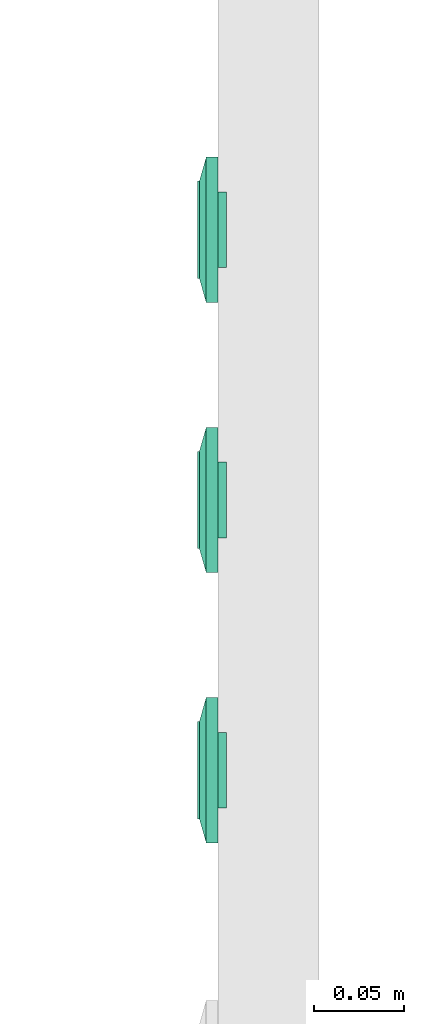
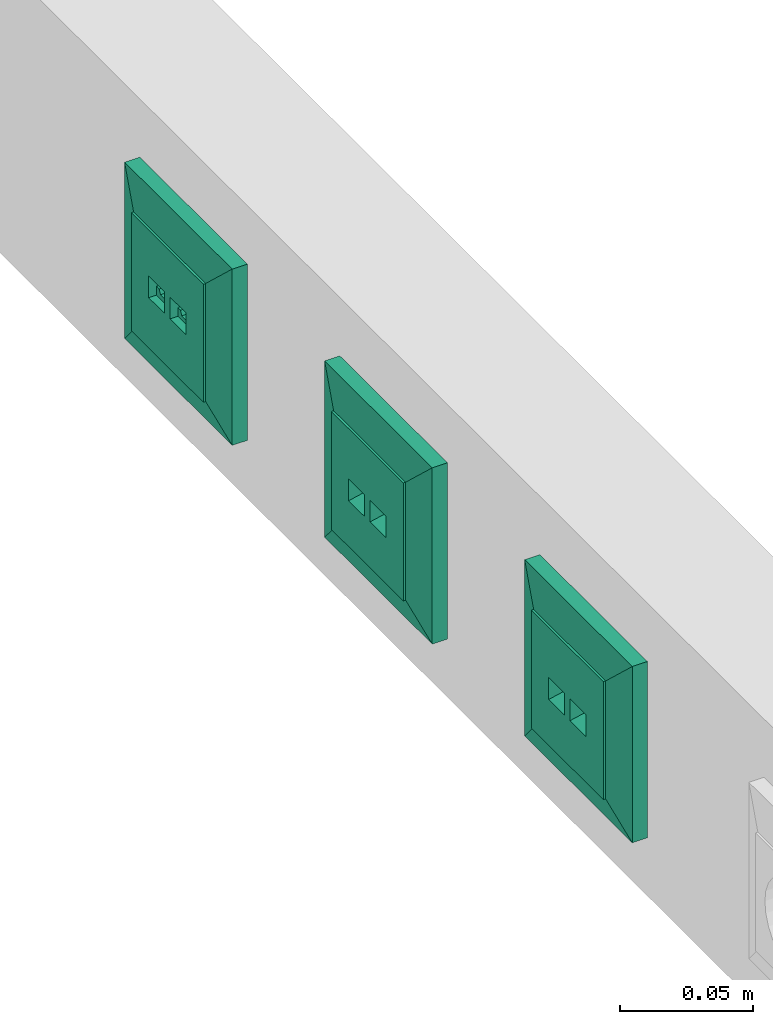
# One storey, part 137 of 153: 3 flow terminals.
"""IFC2X3 building model written with IfcOpenShell, lengths in metres."""

import ifcopenshell
import ifcopenshell.guid

model = None  # the IFC model being written
_history = None  # IfcOwnerHistory: only IFC2X3 demands one
_inside = {}  # id of a spatial element -> (the spatial element, [elements in it])
_under = {}  # id of a project, library or spatial element -> (it, [spatial elements below it])
_declared = {}  # id of a project -> (the project, [libraries it declares])
_typed = {}  # id of a type object -> (the type object, [elements of that type])
_made_of = {}  # id of a material, layer set ... -> (it, [elements and type objects made of it])


def new_model(schema):
    """Start an empty IFC model of exactly this schema.

    Asked for "IFC4X3", IfcOpenShell would pick the latest addendum, in which some entities
    have other attributes; the version numbers below select the first issue.
    IFC2X3 requires an IfcOwnerHistory on every rooted entity: one is made here for all.
    """
    global model, _history
    if schema == "IFC4X3":
        model = ifcopenshell.file(schema_version=(4, 3, 0, 0))
    else:
        model = ifcopenshell.file(schema=schema)
    _inside.clear()
    _under.clear()
    _declared.clear()
    _typed.clear()
    _made_of.clear()
    _history = None
    if model.schema == "IFC2X3":
        org = make("IfcOrganization", Name="unknown")
        user = make(
            "IfcPersonAndOrganization",
            ThePerson=make("IfcPerson", FamilyName="unknown"),
            TheOrganization=org,
        )
        app = make(
            "IfcApplication",
            ApplicationDeveloper=org,
            Version="unknown",
            ApplicationFullName="unknown",
            ApplicationIdentifier="unknown",
        )
        _history = make(
            "IfcOwnerHistory",
            OwningUser=user,
            OwningApplication=app,
            ChangeAction="ADDED",
            CreationDate=0,
        )
    return model


def make(cls, **values):
    """One entity of the class cls with the attributes given. An attribute that is None is left unset."""
    return model.create_entity(
        cls, **{name: value for name, value in values.items() if value is not None}
    )


def entity(cls, *values):
    """Any entity or typed value of the class cls, its attributes in the order of the schema. None: left unset."""
    e = model.create_entity(cls)
    for i, value in enumerate(values):
        if value is not None:
            e[i] = value
    return e


def rooted(cls, **values):
    """An entity with a GlobalId (a new one), such as an element, a storey or a relation."""
    return make(cls, GlobalId=ifcopenshell.guid.new(), OwnerHistory=_history, **values)


def si_unit(unit_type, name, prefix=None):
    """IfcSIUnit, for example si_unit("LENGTHUNIT", "METRE", prefix="MILLI")."""
    return make("IfcSIUnit", UnitType=unit_type, Prefix=prefix, Name=name)


def converted_unit(unit_type, name, factor, base, dimensions=None, offset=None):
    """IfcConversionBasedUnit, such as the inch: factor (a typed value) times the base unit."""
    return make(
        "IfcConversionBasedUnit"
        if offset is None
        else "IfcConversionBasedUnitWithOffset",
        ConversionOffset=offset,
        Dimensions=None
        if dimensions is None
        else entity("IfcDimensionalExponents", *dimensions),
        UnitType=unit_type,
        Name=name,
        ConversionFactor=make(
            "IfcMeasureWithUnit", ValueComponent=factor, UnitComponent=base
        ),
    )


def derived_unit(unit_type, elements):
    """IfcDerivedUnit: a product of units, each with its exponent."""
    return make(
        "IfcDerivedUnit",
        Elements=[
            make("IfcDerivedUnitElement", Unit=unit, Exponent=power)
            for unit, power in elements
        ],
        UnitType=unit_type,
    )


def assignment(units):
    """IfcUnitAssignment: the units of a project."""
    return None if units is None else make("IfcUnitAssignment", Units=units)


def point(xyz):
    """IfcCartesianPoint."""
    return None if xyz is None else make("IfcCartesianPoint", Coordinates=xyz)


def direction(xyz):
    """IfcDirection."""
    return None if xyz is None else make("IfcDirection", DirectionRatios=xyz)


def frame(location, z_axis=None, x_axis=None):
    """IfcAxis2Placement3D, a coordinate frame: its origin and axes. An axis left out is left unset."""
    return make(
        "IfcAxis2Placement3D",
        Location=point(location),
        Axis=direction(z_axis),
        RefDirection=direction(x_axis),
    )


def origin():
    """The frame at (0, 0, 0) with its axes left unset."""
    return frame((0.0, 0.0, 0.0))


def place(relative_to, where):
    """IfcLocalPlacement: puts the frame where relative to a parent placement (None: the world)."""
    return make(
        "IfcLocalPlacement", PlacementRelTo=relative_to, RelativePlacement=where
    )


def context(
    kind, dimensions, precision=None, world=None, true_north=None, identifier=None
):
    """IfcGeometricRepresentationContext, for example the 3D "Model" context."""
    return make(
        "IfcGeometricRepresentationContext",
        ContextIdentifier=identifier,
        ContextType=kind,
        CoordinateSpaceDimension=dimensions,
        Precision=precision,
        WorldCoordinateSystem=world,
        TrueNorth=true_north,
    )


def subcontext(parent, identifier, kind, view, scale=None):
    """IfcGeometricRepresentationSubContext, for example "Body" below "Model"."""
    return make(
        "IfcGeometricRepresentationSubContext",
        ContextIdentifier=identifier,
        ContextType=kind,
        ParentContext=parent,
        TargetScale=scale,
        TargetView=view,
    )


def project(units=None, contexts=None):
    """IfcProject with its units and contexts."""
    return rooted(
        "IfcProject",
        Name="project",
        RepresentationContexts=contexts,
        UnitsInContext=assignment(units),
    )


def spatial(cls, under=None, at=None, **own):
    """A site, building, storey or space (cls), placed at a placement, below another one or the project."""
    s = rooted(cls, ObjectPlacement=at, **own)
    if under is not None:
        _under.setdefault(under.id(), (under, []))[1].append(s)
    return s


def faces_of(points, faces, orient=None, outer=None):
    """IfcFace entities. A face is a list of loops; a loop is a list of indices into points, from 0.

    orient and outer hold one flag for each loop. By default every Orientation is true, the
    first loop of a face is its IfcFaceOuterBound and the others are IfcFaceBound.
    """
    made = []
    for i, loops in enumerate(faces):
        bounds = []
        for j, loop in enumerate(loops):
            is_outer = j == 0 if outer is None else outer[i][j]
            bounds.append(
                make(
                    "IfcFaceOuterBound" if is_outer else "IfcFaceBound",
                    Bound=make("IfcPolyLoop", Polygon=[points[k] for k in loop]),
                    Orientation=True if orient is None else orient[i][j],
                )
            )
        made.append(make("IfcFace", Bounds=bounds))
    return made


def faceted_brep(points, faces, orient=None, outer=None, voids=None):
    """IfcFacetedBrep: a solid bounded by flat faces; with voids (closed shells), ...WithVoids."""
    shared = [point(p) for p in points]
    hull = make("IfcClosedShell", CfsFaces=faces_of(shared, faces, orient, outer))
    if voids is None:
        return make("IfcFacetedBrep", Outer=hull)
    return make(
        "IfcFacetedBrepWithVoids",
        Outer=hull,
        Voids=[
            make(cls, CfsFaces=faces_of(shared, fs, o, b)) for cls, fs, o, b in voids
        ],
    )


def shape(context_of_items, identifier, shape_type, items):
    """IfcShapeRepresentation: the items that make up one representation, for example the "Body"."""
    return make(
        "IfcShapeRepresentation",
        ContextOfItems=context_of_items,
        RepresentationIdentifier=identifier,
        RepresentationType=shape_type,
        Items=items,
    )


def source(mapping_origin, context_of_items, identifier, shape_type, items):
    """IfcRepresentationMap: a shape defined once, which mapped items show again and again."""
    return make(
        "IfcRepresentationMap",
        MappingOrigin=mapping_origin,
        MappedRepresentation=shape(context_of_items, identifier, shape_type, items),
    )


def transform(
    local_origin,
    x_axis=None,
    y_axis=None,
    z_axis=None,
    scale=None,
    scale2=None,
    scale3=None,
    uniform=True,
):
    """IfcCartesianTransformationOperator3D, or its non-uniform kind. x_axis, y_axis, z_axis: its Axis1, 2, 3."""
    if uniform:
        return make(
            "IfcCartesianTransformationOperator3D",
            Axis1=direction(x_axis),
            Axis2=direction(y_axis),
            LocalOrigin=point(local_origin),
            Scale=scale,
            Axis3=direction(z_axis),
        )
    return make(
        "IfcCartesianTransformationOperator3DnonUniform",
        Axis1=direction(x_axis),
        Axis2=direction(y_axis),
        LocalOrigin=point(local_origin),
        Scale=scale,
        Axis3=direction(z_axis),
        Scale2=scale2,
        Scale3=scale3,
    )


def mapped(mapping_source, mapping_target):
    """IfcMappedItem: shows the shape of a source again, moved by a transform."""
    return make(
        "IfcMappedItem", MappingSource=mapping_source, MappingTarget=mapping_target
    )


def made_of(thing, what):
    """Note that an element or type object is made of a material, layer set ...; save() writes the relation."""
    if what is not None:
        _made_of.setdefault(what.id(), (what, []))[1].append(thing)
    return thing


def type_object(cls, material=None, **own):
    """A type object (cls), such as IfcWallType, which elements share."""
    return made_of(rooted(cls, **own), material)


def type_shapes(of_type, sources):
    """Give a type object the sources (RepresentationMaps) that its elements show as mapped items."""
    of_type.RepresentationMaps = sources


def element(
    cls,
    number,
    at=None,
    inside=None,
    cuts=None,
    type_object=None,
    material=None,
    context=None,
    identifier="Body",
    shape_type=None,
    held_by="IfcProductDefinitionShape",
    body=None,
    shapes=None,
    **own,
):
    """One element of the class cls, such as IfcWall. Its Tag is "e" and its number.

    at: its placement. inside: the storey or other place that contains it. cuts: it is an
    opening in that element (IfcRelVoidsElement). A single representation is given by context,
    identifier, shape_type and body (its items); several are given by shapes. held_by: the class
    of the entity that holds the representations. save() writes the other relations.
    """
    e = rooted(cls, Tag="e%d" % number, ObjectPlacement=at, **own)
    if body is not None:
        shapes = [shape(context, identifier, shape_type, body)]
    if shapes is not None:
        e.Representation = make(held_by, Representations=shapes)
    if inside is not None:
        _inside.setdefault(inside.id(), (inside, []))[1].append(e)
    if cuts is not None:
        rooted(
            "IfcRelVoidsElement", RelatingBuildingElement=cuts, RelatedOpeningElement=e
        )
    if type_object is not None:
        _typed.setdefault(type_object.id(), (type_object, []))[1].append(e)
    return made_of(e, material)


def aggregate(whole, parts):
    """IfcRelAggregates: a whole, such as a stair, and the parts it consists of."""
    return rooted("IfcRelAggregates", RelatingObject=whole, RelatedObjects=parts)


def save(model, path):
    """Write the relations noted so far, then the file.

    IfcRelAggregates (storeys below a building ...), IfcRelContainedInSpatialStructure (elements
    in a storey), IfcRelDefinesByType, IfcRelAssociatesMaterial and IfcRelDeclares: one each for
    every whole, place, type object, material and project.
    """
    for whole, parts in _under.values():
        aggregate(whole, parts)
    for where, things in _inside.values():
        rooted(
            "IfcRelContainedInSpatialStructure",
            RelatedElements=things,
            RelatingStructure=where,
        )
    for kind, things in _typed.values():
        rooted("IfcRelDefinesByType", RelatedObjects=things, RelatingType=kind)
    for what, things in _made_of.values():
        rooted("IfcRelAssociatesMaterial", RelatedObjects=things, RelatingMaterial=what)
    for by, libraries in _declared.values():
        rooted("IfcRelDeclares", RelatingContext=by, RelatedDefinitions=libraries)
    model.write(path)


model = new_model("IFC2X3")

# Units and contexts
model_context = context("Model", 3, precision=1e-05, world=origin(), true_north=direction((6.12303176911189e-17, 1.0)))
body_context = subcontext(model_context, "Body", "Model", "MODEL_VIEW")
ifc_project = project(units=[si_unit("LENGTHUNIT", "METRE"), si_unit("AREAUNIT", "SQUARE_METRE"), si_unit("VOLUMEUNIT", "CUBIC_METRE"), converted_unit("PLANEANGLEUNIT", "DEGREE", entity("IfcRatioMeasure", 0.0174532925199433), si_unit("PLANEANGLEUNIT", "RADIAN"), dimensions=[0, 0, 0, 0, 0, 0, 0]), si_unit("MASSUNIT", "GRAM", prefix="KILO"), derived_unit("MASSDENSITYUNIT", [(si_unit("MASSUNIT", "GRAM", prefix="KILO"), 1), (si_unit("LENGTHUNIT", "METRE"), -3)]), si_unit("TIMEUNIT", "SECOND"), si_unit("FREQUENCYUNIT", "HERTZ"), si_unit("THERMODYNAMICTEMPERATUREUNIT", "DEGREE_CELSIUS"), derived_unit("THERMALTRANSMITTANCEUNIT", [(si_unit("MASSUNIT", "GRAM", prefix="KILO"), 1), (si_unit("THERMODYNAMICTEMPERATUREUNIT", "KELVIN"), -1), (si_unit("TIMEUNIT", "SECOND"), -3)]), derived_unit("VOLUMETRICFLOWRATEUNIT", [(si_unit("LENGTHUNIT", "METRE"), 3), (si_unit("TIMEUNIT", "SECOND"), -1)]), si_unit("ELECTRICCURRENTUNIT", "AMPERE"), si_unit("ELECTRICVOLTAGEUNIT", "VOLT"), si_unit("POWERUNIT", "WATT"), si_unit("FORCEUNIT", "NEWTON"), si_unit("ILLUMINANCEUNIT", "LUX"), si_unit("LUMINOUSFLUXUNIT", "LUMEN"), si_unit("LUMINOUSINTENSITYUNIT", "CANDELA"), derived_unit("USERDEFINED", [(si_unit("MASSUNIT", "GRAM", prefix="KILO"), -1), (si_unit("LENGTHUNIT", "METRE"), -2), (si_unit("TIMEUNIT", "SECOND"), 3), (si_unit("LUMINOUSFLUXUNIT", "LUMEN"), 1)]), derived_unit("LINEARVELOCITYUNIT", [(si_unit("LENGTHUNIT", "METRE"), 1), (si_unit("TIMEUNIT", "SECOND"), -1)]), si_unit("PRESSUREUNIT", "PASCAL"), derived_unit("USERDEFINED", [(si_unit("LENGTHUNIT", "METRE"), -2), (si_unit("MASSUNIT", "GRAM", prefix="KILO"), 1), (si_unit("TIMEUNIT", "SECOND"), -2)])], contexts=[model_context])

# Site, building, storey
site_placement = place(None, origin())
site = spatial("IfcSite", under=ifc_project, at=site_placement, Name="Default", CompositionType="ELEMENT")
building_placement = place(site_placement, origin())
building = spatial("IfcBuilding", under=site, at=building_placement, CompositionType="ELEMENT")
storey_placement = place(building_placement, frame((0.0, 0.0, -4.62)))
storey = spatial("IfcBuildingStorey", under=building, at=storey_placement, Name="S02", CompositionType="ELEMENT", Elevation=-4.62)

# Flow terminals
electric_appliance_type = type_object("IfcElectricApplianceType", Name="RJ45 IP20", PredefinedType="NOTDEFINED")
shared_shape = source(origin(), body_context, "Body", "Brep", [
    faceted_brep([(0.00200000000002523, 0.0, 0.00799999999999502), (0.00400000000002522, 0.0, 0.00799999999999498), (0.00500000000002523, 0.00199999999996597, 0.00799999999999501), (0.0110000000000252, 0.00199999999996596, 0.00799999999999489), (0.0120000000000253, 0.0, 0.00799999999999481), (0.0140000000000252, 0.0, 0.00799999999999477), (0.0140000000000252, 0.00399999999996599, 0.00799999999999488), (0.00200000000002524, 0.00399999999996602, 0.00799999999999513), (0.00200000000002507, 0.0, 0.0), (0.00200000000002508, 0.00399999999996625, 0.0), (0.0140000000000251, 0.00399999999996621, 0.0), (0.0140000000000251, 0.0, 0.0), (0.0120000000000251, 0.0, 0.0), (0.0110000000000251, 0.00199999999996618, 0.0), (0.00500000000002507, 0.0019999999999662, 0.0), (0.00400000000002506, 0.0, 0.0)], [[[0, 1, 2, 3, 4, 5, 6, 7]], [[8, 9, 10, 11, 12, 13, 14, 15]], [[1, 0, 8, 15]], [[2, 1, 15, 14]], [[3, 2, 14, 13]], [[4, 3, 13, 12]], [[5, 4, 12, 11]], [[6, 5, 11, 10]], [[7, 6, 10, 9]], [[0, 7, 9, 8]]]),
    faceted_brep([(-0.0139999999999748, 0.0, 0.00799999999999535), (-0.0119999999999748, 0.0, 0.00799999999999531), (-0.0109999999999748, 0.00199999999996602, 0.00799999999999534), (-0.00499999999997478, 0.00199999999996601, 0.00799999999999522), (-0.0039999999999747, 0.0, 0.00799999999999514), (-0.00199999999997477, 0.0, 0.0079999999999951), (-0.00199999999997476, 0.00399999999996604, 0.00799999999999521), (-0.0139999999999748, 0.00399999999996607, 0.00799999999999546), (-0.0139999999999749, 0.0, 0.0), (-0.0139999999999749, 0.00399999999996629, 0.0), (-0.00199999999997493, 0.00399999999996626, 0.0), (-0.00199999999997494, 0.0, 0.0), (-0.00399999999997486, 0.0, 0.0), (-0.00499999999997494, 0.00199999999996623, 0.0), (-0.0109999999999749, 0.00199999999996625, 0.0), (-0.0119999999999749, 0.0, 0.0)], [[[0, 1, 2, 3, 4, 5, 6, 7]], [[8, 9, 10, 11, 12, 13, 14, 15]], [[1, 0, 8, 15]], [[2, 1, 15, 14]], [[3, 2, 14, 13]], [[4, 3, 13, 12]], [[5, 4, 12, 11]], [[6, 5, 11, 10]], [[7, 6, 10, 9]], [[0, 7, 9, 8]]]),
    faceted_brep([(0.0140000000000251, 0.00399999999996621, 0.0), (0.00200000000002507, 0.00399999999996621, 0.0), (0.00200000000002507, -0.00350000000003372, 0.0), (0.0140000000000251, -0.00350000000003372, 0.0), (0.0140000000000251, 0.00399999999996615, 0.00199999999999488), (0.00200000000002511, 0.00399999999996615, 0.00199999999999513), (0.00200000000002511, -0.00393859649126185, 0.00199999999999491), (0.0140000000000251, -0.00393859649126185, 0.00199999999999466), (0.0210000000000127, 0.0209999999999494, 0.00199999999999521), (-0.0209999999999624, 0.0209999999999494, 0.00199999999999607), (-0.0209999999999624, -0.0210000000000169, 0.00199999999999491), (0.0210000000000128, -0.0210000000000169, 0.00199999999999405), (-0.0139999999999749, 0.0039999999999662, 0.00199999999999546), (-0.0019999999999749, 0.0039999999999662, 0.00199999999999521), (-0.00199999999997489, -0.0039385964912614, 0.00199999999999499), (-0.0139999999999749, -0.00393859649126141, 0.00199999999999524), (0.0210000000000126, 0.0209999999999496, -0.00460000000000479), (0.0210000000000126, -0.0210000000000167, -0.00460000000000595), (-0.0209999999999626, -0.0210000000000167, -0.00460000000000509), (-0.0209999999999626, 0.0209999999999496, -0.00460000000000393), (-0.00199999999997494, 0.00399999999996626, 0.0), (-0.0139999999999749, 0.00399999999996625, 0.0), (-0.0139999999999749, -0.00350000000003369, 0.0), (-0.00199999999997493, -0.00350000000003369, 0.0)], [[[0, 1, 2, 3]], [[1, 0, 4, 5]], [[2, 1, 5, 6]], [[3, 2, 6, 7]], [[0, 3, 7, 4]], [[5, 4, 7, 6], [8, 9, 10, 11], [12, 13, 14, 15]], [[16, 17, 18, 19]], [[9, 8, 16, 19]], [[10, 9, 19, 18]], [[11, 10, 18, 17]], [[8, 11, 17, 16]], [[20, 21, 22, 23]], [[21, 20, 13, 12]], [[22, 21, 12, 15]], [[23, 22, 15, 14]], [[20, 23, 14, 13]]], outer=[[True], [True], [True], [True], [True], [False, True, False], [True], [True], [True], [True], [True], [True], [True], [True], [True], [True]]),
    faceted_brep([(0.0270000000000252, 0.026999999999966, 0.0113999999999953), (-0.0269999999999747, 0.026999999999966, 0.0113999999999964), (-0.0269999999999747, -0.0270000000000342, 0.0113999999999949), (0.0270000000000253, -0.0270000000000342, 0.0113999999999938), (0.0020000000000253, 0.00399999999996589, 0.0113999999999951), (0.0140000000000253, 0.00399999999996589, 0.0113999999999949), (0.0140000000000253, -0.00600000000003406, 0.0113999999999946), (0.0020000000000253, -0.00600000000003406, 0.0113999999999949), (-0.0139999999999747, 0.00399999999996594, 0.0113999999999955), (-0.00199999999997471, 0.00399999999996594, 0.0113999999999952), (-0.00199999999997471, -0.0060000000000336, 0.0113999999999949), (-0.0139999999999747, -0.00600000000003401, 0.0113999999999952), (0.0270000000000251, 0.0269999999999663, 0.00199999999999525), (0.0270000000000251, -0.0270000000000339, 0.00199999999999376), (-0.0269999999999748, -0.0270000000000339, 0.00199999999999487), (-0.0269999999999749, 0.0269999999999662, 0.00199999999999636), (0.0140000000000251, 0.00399999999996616, 0.00199999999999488), (0.00200000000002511, 0.00399999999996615, 0.00199999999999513), (0.00200000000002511, -0.00393859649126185, 0.00199999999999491), (0.0140000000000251, -0.00393859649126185, 0.00199999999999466), (-0.00199999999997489, 0.0039999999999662, 0.00199999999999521), (-0.0139999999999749, 0.0039999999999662, 0.00199999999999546), (-0.0139999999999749, -0.0039385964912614, 0.00199999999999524), (-0.00199999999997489, -0.0039385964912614, 0.00199999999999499)], [[[0, 1, 2, 3], [4, 5, 6, 7], [8, 9, 10, 11]], [[12, 13, 14, 15], [16, 17, 18, 19], [20, 21, 22, 23]], [[1, 0, 12, 15]], [[2, 1, 15, 14]], [[3, 2, 14, 13]], [[0, 3, 13, 12]], [[4, 17, 16, 5]], [[17, 4, 7, 18]], [[18, 7, 6, 19]], [[5, 16, 19, 6]], [[8, 21, 20, 9]], [[21, 8, 11, 22]], [[22, 11, 10, 23]], [[9, 20, 23, 10]]]),
    faceted_brep([(0.027000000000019, 0.0269999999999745, 0.00659999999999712), (-0.0269999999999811, 0.0269999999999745, 0.00659999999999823), (-0.026999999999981, -0.0270000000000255, 0.00659999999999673), (0.027000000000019, -0.0270000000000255, 0.00659999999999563), (0.040350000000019, 0.0403499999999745, 0.00659999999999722), (0.040350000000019, -0.0403500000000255, 0.00659999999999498), (-0.0403499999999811, -0.0403500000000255, 0.00659999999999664), (-0.0403499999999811, 0.0403499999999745, 0.00659999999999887), (-0.026999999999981, 0.0269999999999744, 0.0103999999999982), (0.027000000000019, 0.0269999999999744, 0.0103999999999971), (-0.026999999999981, -0.0270000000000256, 0.0103999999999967), (0.027000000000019, -0.0270000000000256, 0.0103999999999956)], [[[0, 1, 2, 3], [4, 5, 6, 7]], [[4, 7, 8, 9]], [[7, 6, 10, 8]], [[6, 5, 11, 10]], [[5, 4, 9, 11]], [[0, 9, 8, 1]], [[1, 8, 10, 2]], [[2, 10, 11, 3]], [[9, 0, 3, 11]]], outer=[[False, True], [True], [True], [True], [True], [True], [True], [True], [True]]),
    faceted_brep([(0.040350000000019, 0.0403499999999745, 0.00659999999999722), (-0.0403499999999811, 0.0403499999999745, 0.00659999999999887), (-0.0403499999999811, -0.0403500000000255, 0.00659999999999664), (0.040350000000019, -0.0403500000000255, 0.00659999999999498), (-0.0269999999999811, 0.0269999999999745, 0.00659999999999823), (0.0270000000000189, 0.0269999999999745, 0.00659999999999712), (0.0270000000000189, -0.0270000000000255, 0.00659999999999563), (-0.0269999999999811, -0.0270000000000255, 0.00659999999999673), (0.0403500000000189, 0.0403499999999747, 0.0), (0.0403500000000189, -0.0403500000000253, 0.0), (-0.0403499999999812, -0.0403500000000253, 0.0), (-0.0403499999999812, 0.0403499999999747, 0.0), (0.0270000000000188, 0.0269999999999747, 0.0), (-0.0269999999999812, 0.0269999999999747, 0.0), (-0.0269999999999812, -0.0270000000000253, 0.0), (0.0270000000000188, -0.0270000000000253, 0.0)], [[[0, 1, 2, 3], [4, 5, 6, 7]], [[8, 9, 10, 11], [12, 13, 14, 15]], [[1, 0, 8, 11]], [[2, 1, 11, 10]], [[3, 2, 10, 9]], [[0, 3, 9, 8]], [[12, 5, 4, 13]], [[13, 4, 7, 14]], [[14, 7, 6, 15]], [[5, 12, 15, 6]]]),
])
type_shapes(electric_appliance_type, [shared_shape])
for number, where, z_axis, x_axis in (
    (1, (61.3337436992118, -186.240769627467, -4.18699999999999), (-1.0, 0.0, 0.0), (0.0, -1.0, 0.0)),
    (2, (61.3337436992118, -186.090769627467, -4.18699999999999), (-1.0, 0.0, 0.0), (0.0, -1.0, 0.0)),
    (3, (61.3337436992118, -185.940769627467, -4.18700000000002), (-1.0, 0.0, 0.0), (0.0, 1.0, 0.0)),
):
    element("IfcFlowTerminal", number, at=place(building_placement, frame(where, z_axis=z_axis, x_axis=x_axis)), inside=storey, type_object=electric_appliance_type, Name="INT_Prise RJ45:RJ45 IP20", ObjectType="INT_Prise RJ45:RJ45 IP20", context=body_context, shape_type="MappedRepresentation", body=[
        mapped(shared_shape, transform((0.0, 0.0, 0.0), scale=1.0)),
    ])

save(model, "model.ifc")
